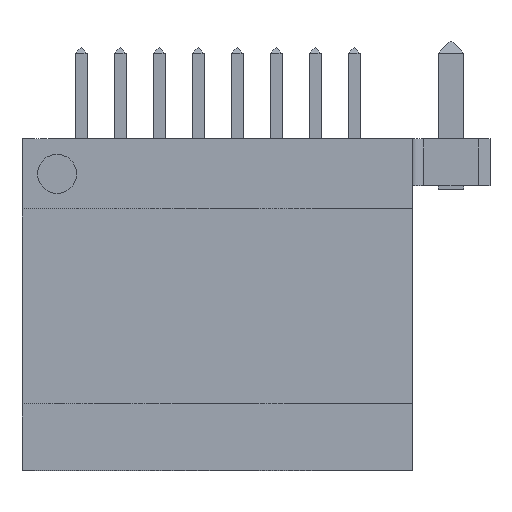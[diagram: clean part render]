
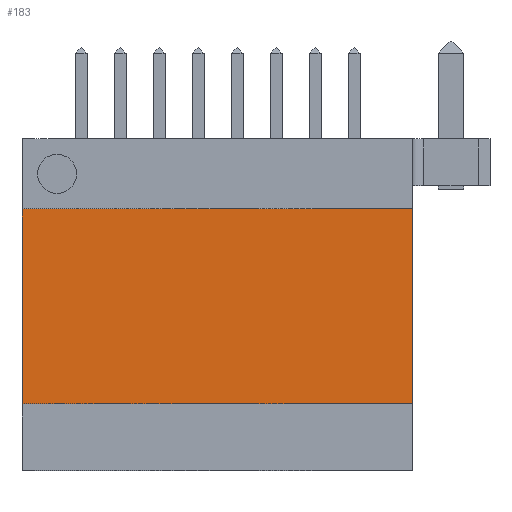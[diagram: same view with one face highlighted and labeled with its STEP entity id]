
A CAD part, top view. The second image highlights one B-rep face of the part: STEP entity #183.
In plain terms, the highlighted planar face has unit normal (0, 0, 1).
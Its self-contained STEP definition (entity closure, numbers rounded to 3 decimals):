
#9 = VERTEX_POINT ( 'NONE', #1403 ) ;
#11 = VERTEX_POINT ( 'NONE', #1401 ) ;
#167 = EDGE_LOOP ( 'NONE', ( #187, #171, #207, #186 ) ) ;
#171 = ORIENTED_EDGE ( 'NONE', *, *, #177, .T. ) ;
#172 = EDGE_CURVE ( 'NONE', #1300, #9, #1653, .T. ) ;
#177 = EDGE_CURVE ( 'NONE', #1350, #11, #1599, .T. ) ;
#183 = ADVANCED_FACE ( 'NONE', ( #1643 ), #1650, .T. ) ;
#186 = ORIENTED_EDGE ( 'NONE', *, *, #172, .F. ) ;
#187 = ORIENTED_EDGE ( 'NONE', *, *, #1337, .T. ) ;
#207 = ORIENTED_EDGE ( 'NONE', *, *, #5044, .F. ) ;
#1300 = VERTEX_POINT ( 'NONE', #4530 ) ;
#1337 = EDGE_CURVE ( 'NONE', #1300, #1350, #4644, .T. ) ;
#1350 = VERTEX_POINT ( 'NONE', #4631 ) ;
#1401 = CARTESIAN_POINT ( 'NONE',  ( 10., 1.7, -0.2 ) ) ;
#1403 = CARTESIAN_POINT ( 'NONE',  ( 10., 6.7, -0.2 ) ) ;
#1599 = LINE ( 'NONE', #1655, #1606 ) ;
#1606 = VECTOR ( 'NONE', #1654, 1000. ) ;
#1639 = DIRECTION ( 'NONE',  ( 0., -1., 0. ) ) ;
#1640 = DIRECTION ( 'NONE',  ( 0., 0., 1. ) ) ;
#1641 = CARTESIAN_POINT ( 'NONE',  ( -1., 6.7, -0.2 ) ) ;
#1643 = FACE_OUTER_BOUND ( 'NONE', #167, .T. ) ;
#1650 = PLANE ( 'NONE',  #1659 ) ;
#1651 = DIRECTION ( 'NONE',  ( 1., 0., 0. ) ) ;
#1652 = CARTESIAN_POINT ( 'NONE',  ( -1., 6.7, -0.2 ) ) ;
#1653 = LINE ( 'NONE', #1652, #1660 ) ;
#1654 = DIRECTION ( 'NONE',  ( 1., 0., 0. ) ) ;
#1655 = CARTESIAN_POINT ( 'NONE',  ( -1., 1.7, -0.2 ) ) ;
#1659 = AXIS2_PLACEMENT_3D ( 'NONE', #1641, #1640, #1639 ) ;
#1660 = VECTOR ( 'NONE', #1651, 1000. ) ;
#4530 = CARTESIAN_POINT ( 'NONE',  ( 0., 6.7, -0.2 ) ) ;
#4631 = CARTESIAN_POINT ( 'NONE',  ( 0., 1.7, -0.2 ) ) ;
#4641 = DIRECTION ( 'NONE',  ( 0., -1., 0. ) ) ;
#4642 = VECTOR ( 'NONE', #4641, 1000. ) ;
#4643 = CARTESIAN_POINT ( 'NONE',  ( 0., 8.5, -0.2 ) ) ;
#4644 = LINE ( 'NONE', #4643, #4642 ) ;
#4876 = DIRECTION ( 'NONE',  ( 0., -1., 0. ) ) ;
#4877 = VECTOR ( 'NONE', #4876, 1000. ) ;
#4883 = CARTESIAN_POINT ( 'NONE',  ( 10., 6.7, -0.2 ) ) ;
#4884 = LINE ( 'NONE', #4883, #4877 ) ;
#5044 = EDGE_CURVE ( 'NONE', #9, #11, #4884, .T. ) ;
